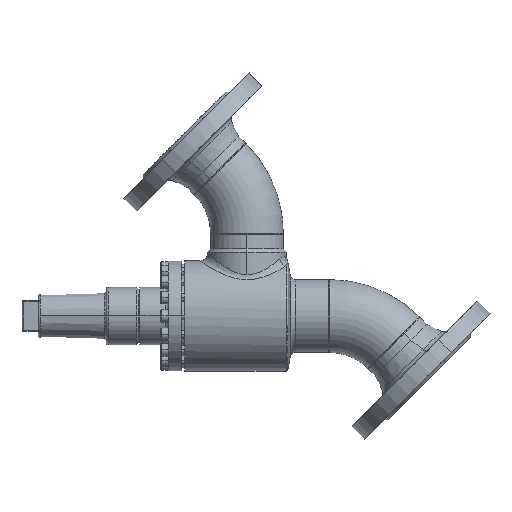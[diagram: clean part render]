
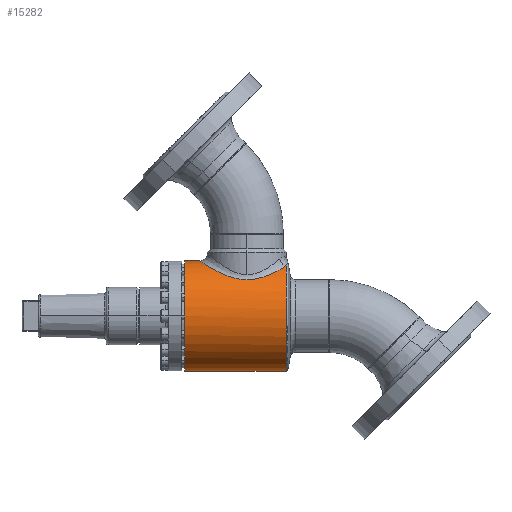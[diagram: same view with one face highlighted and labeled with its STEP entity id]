
A CAD part, left-side view. The second image highlights one B-rep face of the part: STEP entity #15282.
In plain terms, the highlighted cylindrical face has radius 57.5 mm (diameter 115 mm), a partial arc.
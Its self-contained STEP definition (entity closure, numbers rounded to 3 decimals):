
#5780 = VERTEX_POINT ( 'NONE', #8712 ) ;
#6008 = EDGE_CURVE ( 'NONE', #5780, #7051, #9033, .T. ) ;
#6390 = CARTESIAN_POINT ( 'NONE',  ( 0., -105.892, -57.5 ) ) ;
#7051 = VERTEX_POINT ( 'NONE', #9838 ) ;
#7651 = EDGE_CURVE ( 'NONE', #9532, #7051, #10313, .T. ) ;
#7653 = FACE_OUTER_BOUND ( 'NONE', #15040, .T. ) ;
#7654 = CYLINDRICAL_SURFACE ( 'NONE', #7655, 57.5 ) ;
#7655 = AXIS2_PLACEMENT_3D ( 'NONE', #7656, #7657, #7658 ) ;
#7656 = CARTESIAN_POINT ( 'NONE',  ( 0., -111., 0. ) ) ;
#7657 = DIRECTION ( 'NONE',  ( 0., 1., 0. ) ) ;
#7658 = DIRECTION ( 'NONE',  ( 0., 0., 1. ) ) ;
#8250 = ORIENTED_EDGE ( 'NONE', *, *, #7651, .F. ) ;
#8598 = ORIENTED_EDGE ( 'NONE', *, *, #6008, .T. ) ;
#8712 = CARTESIAN_POINT ( 'NONE',  ( 0., -15.7, 57.5 ) ) ;
#9033 = LINE ( 'NONE', #9034, #9035 ) ;
#9034 = CARTESIAN_POINT ( 'NONE',  ( 0., -111., 57.5 ) ) ;
#9035 = VECTOR ( 'NONE', #9036, 1000. ) ;
#9036 = DIRECTION ( 'NONE',  ( 0., 1., 0. ) ) ;
#9122 = EDGE_CURVE ( 'NONE', #10022, #5780, #11357, .T. ) ;
#9494 = ORIENTED_EDGE ( 'NONE', *, *, #9122, .T. ) ;
#9532 = VERTEX_POINT ( 'NONE', #12109 ) ;
#9758 = EDGE_CURVE ( 'NONE', #13770, #9532, #12250, .T. ) ;
#9838 = CARTESIAN_POINT ( 'NONE',  ( 0., 0., 57.5 ) ) ;
#10022 = VERTEX_POINT ( 'NONE', #11816 ) ;
#10241 = EDGE_CURVE ( 'NONE', #13770, #10022, #12058, .T. ) ;
#10313 = CIRCLE ( 'NONE', #10315, 57.5 ) ;
#10315 = AXIS2_PLACEMENT_3D ( 'NONE', #10316, #10317, #10318 ) ;
#10316 = CARTESIAN_POINT ( 'NONE',  ( 0., 0., 0. ) ) ;
#10317 = DIRECTION ( 'NONE',  ( 0., 1., 0. ) ) ;
#10318 = DIRECTION ( 'NONE',  ( 0., 0., 1. ) ) ;
#10620 = ORIENTED_EDGE ( 'NONE', *, *, #10241, .T. ) ;
#11357 = B_SPLINE_CURVE_WITH_KNOTS ( 'NONE', 3,
 ( #11358, #11359, #11380, #11381, #11382, #11383, #11384, #11385, #11386, #11387, #11388, #11389, #11390, #11391, #11392, #11393, #11394, #11395, #11415, #11416, #11417, #11418, #11419, #11420, #11421, #11422, #11423, #11424, #11425, #11426, #11427, #11428, #11429, #11430, #11449, #11450, #11451, #11452, #11453, #11454, #11455, #11456, #11457, #11458, #11459, #11460, #11461, #11462, #11463, #11464, #11482, #11483, #11484, #11485, #11486, #11487, #11488, #11489, #11490, #11491, #11492, #11493 ),
 .UNSPECIFIED., .F., .F.,
 ( 4, 2, 2, 2, 2, 2, 2, 2, 2, 2, 2, 2, 2, 2, 2, 2, 2, 2, 2, 2, 2, 2, 2, 2, 2, 2, 2, 2, 2, 2, 4 ),
 ( 0., 0.008, 0.016, 0.017, 0.019, 0.023, 0.031, 0.035, 0.039, 0.047, 0.049, 0.05, 0.054, 0.058, 0.06, 0.062, 0.07, 0.074, 0.078, 0.085, 0.089, 0.091, 0.093, 0.101, 0.105, 0.107, 0.109, 0.116, 0.118, 0.12, 0.124 ),
 .UNSPECIFIED. ) ;
#11358 = CARTESIAN_POINT ( 'NONE',  ( -24.174, -105.892, 52.171 ) ) ;
#11359 = CARTESIAN_POINT ( 'NONE',  ( -26.132, -104.39, 51.264 ) ) ;
#11380 = CARTESIAN_POINT ( 'NONE',  ( -27.915, -102.76, 50.305 ) ) ;
#11381 = CARTESIAN_POINT ( 'NONE',  ( -31.195, -99.268, 48.34 ) ) ;
#11382 = CARTESIAN_POINT ( 'NONE',  ( -32.691, -97.405, 47.333 ) ) ;
#11383 = CARTESIAN_POINT ( 'NONE',  ( -34.397, -94.927, 46.079 ) ) ;
#11384 = CARTESIAN_POINT ( 'NONE',  ( -34.73, -94.424, 45.829 ) ) ;
#11385 = CARTESIAN_POINT ( 'NONE',  ( -35.379, -93.402, 45.329 ) ) ;
#11386 = CARTESIAN_POINT ( 'NONE',  ( -35.695, -92.884, 45.08 ) ) ;
#11387 = CARTESIAN_POINT ( 'NONE',  ( -36.613, -91.317, 44.344 ) ) ;
#11388 = CARTESIAN_POINT ( 'NONE',  ( -37.186, -90.253, 43.863 ) ) ;
#11389 = CARTESIAN_POINT ( 'NONE',  ( -38.793, -86.998, 42.466 ) ) ;
#11390 = CARTESIAN_POINT ( 'NONE',  ( -39.716, -84.747, 41.594 ) ) ;
#11391 = CARTESIAN_POINT ( 'NONE',  ( -40.882, -81.225, 40.437 ) ) ;
#11392 = CARTESIAN_POINT ( 'NONE',  ( -41.234, -80.027, 40.077 ) ) ;
#11393 = CARTESIAN_POINT ( 'NONE',  ( -41.862, -77.576, 39.421 ) ) ;
#11394 = CARTESIAN_POINT ( 'NONE',  ( -42.138, -76.319, 39.125 ) ) ;
#11395 = CARTESIAN_POINT ( 'NONE',  ( -42.831, -72.529, 38.37 ) ) ;
#11415 = CARTESIAN_POINT ( 'NONE',  ( -43.12, -69.961, 38.038 ) ) ;
#11416 = CARTESIAN_POINT ( 'NONE',  ( -43.257, -66.692, 37.883 ) ) ;
#11417 = CARTESIAN_POINT ( 'NONE',  ( -43.273, -66.034, 37.864 ) ) ;
#11418 = CARTESIAN_POINT ( 'NONE',  ( -43.282, -64.718, 37.854 ) ) ;
#11419 = CARTESIAN_POINT ( 'NONE',  ( -43.275, -64.063, 37.862 ) ) ;
#11420 = CARTESIAN_POINT ( 'NONE',  ( -43.219, -62.103, 37.926 ) ) ;
#11421 = CARTESIAN_POINT ( 'NONE',  ( -43.137, -60.806, 38.02 ) ) ;
#11422 = CARTESIAN_POINT ( 'NONE',  ( -42.884, -58.229, 38.305 ) ) ;
#11423 = CARTESIAN_POINT ( 'NONE',  ( -42.713, -56.95, 38.496 ) ) ;
#11424 = CARTESIAN_POINT ( 'NONE',  ( -42.391, -55.043, 38.85 ) ) ;
#11425 = CARTESIAN_POINT ( 'NONE',  ( -42.272, -54.408, 38.979 ) ) ;
#11426 = CARTESIAN_POINT ( 'NONE',  ( -42.014, -53.15, 39.257 ) ) ;
#11427 = CARTESIAN_POINT ( 'NONE',  ( -41.875, -52.528, 39.406 ) ) ;
#11428 = CARTESIAN_POINT ( 'NONE',  ( -41.13, -49.446, 40.191 ) ) ;
#11429 = CARTESIAN_POINT ( 'NONE',  ( -40.378, -47.077, 40.957 ) ) ;
#11430 = CARTESIAN_POINT ( 'NONE',  ( -39.022, -43.642, 42.237 ) ) ;
#11449 = CARTESIAN_POINT ( 'NONE',  ( -38.532, -42.517, 42.685 ) ) ;
#11450 = CARTESIAN_POINT ( 'NONE',  ( -37.473, -40.304, 43.618 ) ) ;
#11451 = CARTESIAN_POINT ( 'NONE',  ( -36.908, -39.223, 44.098 ) ) ;
#11452 = CARTESIAN_POINT ( 'NONE',  ( -35.115, -36.073, 45.559 ) ) ;
#11453 = CARTESIAN_POINT ( 'NONE',  ( -33.785, -34.085, 46.562 ) ) ;
#11454 = CARTESIAN_POINT ( 'NONE',  ( -31.574, -31.259, 48.064 ) ) ;
#11455 = CARTESIAN_POINT ( 'NONE',  ( -30.801, -30.343, 48.564 ) ) ;
#11456 = CARTESIAN_POINT ( 'NONE',  ( -29.582, -29.009, 49.309 ) ) ;
#11457 = CARTESIAN_POINT ( 'NONE',  ( -29.166, -28.57, 49.557 ) ) ;
#11458 = CARTESIAN_POINT ( 'NONE',  ( -28.313, -27.708, 50.049 ) ) ;
#11459 = CARTESIAN_POINT ( 'NONE',  ( -27.875, -27.282, 50.294 ) ) ;
#11460 = CARTESIAN_POINT ( 'NONE',  ( -25.646, -25.201, 51.504 ) ) ;
#11461 = CARTESIAN_POINT ( 'NONE',  ( -23.737, -23.688, 52.419 ) ) ;
#11462 = CARTESIAN_POINT ( 'NONE',  ( -20.66, -21.659, 53.671 ) ) ;
#11463 = CARTESIAN_POINT ( 'NONE',  ( -19.599, -21.023, 54.069 ) ) ;
#11464 = CARTESIAN_POINT ( 'NONE',  ( -17.948, -20.134, 54.63 ) ) ;
#11482 = CARTESIAN_POINT ( 'NONE',  ( -17.388, -19.848, 54.811 ) ) ;
#11483 = CARTESIAN_POINT ( 'NONE',  ( -16.247, -19.3, 55.16 ) ) ;
#11484 = CARTESIAN_POINT ( 'NONE',  ( -15.665, -19.037, 55.328 ) ) ;
#11485 = CARTESIAN_POINT ( 'NONE',  ( -12.734, -17.796, 56.125 ) ) ;
#11486 = CARTESIAN_POINT ( 'NONE',  ( -10.302, -17.028, 56.627 ) ) ;
#11487 = CARTESIAN_POINT ( 'NONE',  ( -7.142, -16.371, 57.058 ) ) ;
#11488 = CARTESIAN_POINT ( 'NONE',  ( -6.505, -16.254, 57.135 ) ) ;
#11489 = CARTESIAN_POINT ( 'NONE',  ( -5.216, -16.054, 57.267 ) ) ;
#11490 = CARTESIAN_POINT ( 'NONE',  ( -4.563, -15.969, 57.322 ) ) ;
#11491 = CARTESIAN_POINT ( 'NONE',  ( -2.602, -15.766, 57.456 ) ) ;
#11492 = CARTESIAN_POINT ( 'NONE',  ( -1.298, -15.7, 57.5 ) ) ;
#11493 = CARTESIAN_POINT ( 'NONE',  ( 0., -15.7, 57.5 ) ) ;
#11816 = CARTESIAN_POINT ( 'NONE',  ( -24.174, -105.892, 52.171 ) ) ;
#12058 = CIRCLE ( 'NONE', #12059, 57.5 ) ;
#12059 = AXIS2_PLACEMENT_3D ( 'NONE', #12060, #12061, #12062 ) ;
#12060 = CARTESIAN_POINT ( 'NONE',  ( 0., -105.892, 0. ) ) ;
#12061 = DIRECTION ( 'NONE',  ( 0., 1., 0. ) ) ;
#12062 = DIRECTION ( 'NONE',  ( 0., 0., -1. ) ) ;
#12109 = CARTESIAN_POINT ( 'NONE',  ( 0., 0., -57.5 ) ) ;
#12250 = LINE ( 'NONE', #12251, #12252 ) ;
#12251 = CARTESIAN_POINT ( 'NONE',  ( 0., -111., -57.5 ) ) ;
#12252 = VECTOR ( 'NONE', #12253, 1000. ) ;
#12253 = DIRECTION ( 'NONE',  ( 0., 1., 0. ) ) ;
#13770 = VERTEX_POINT ( 'NONE', #6390 ) ;
#14524 = ORIENTED_EDGE ( 'NONE', *, *, #9758, .F. ) ;
#15040 = EDGE_LOOP ( 'NONE', ( #14524, #10620, #9494, #8598, #8250 ) ) ;
#15282 = ADVANCED_FACE ( 'NONE', ( #7653 ), #7654, .T. ) ;
